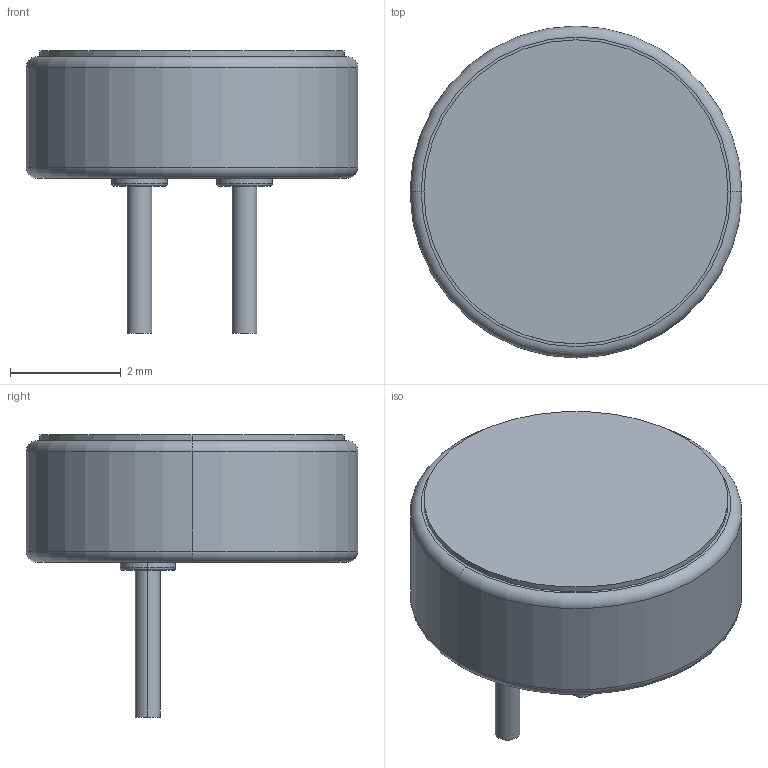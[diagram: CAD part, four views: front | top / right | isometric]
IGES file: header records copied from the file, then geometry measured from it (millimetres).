
Global section: file name: No Iges File Name specified; native system: Autodesk Inventor 2011; preprocessor: AutoDesk Inventor Iges Exporter R2011; author: Dunn; date: 20120110.165652; units: millimetre
Bounding box: 6 x 6 x 5.1 mm (x, y, z)
Volume: 17.7 mm3; surface area: 194.5 mm2
Topology: 3 solids, 6 shells, 83 faces, 154 edges, 98 vertices
Faces by surface type: plane 27, revolution 26, cylinder 16, torus 14
